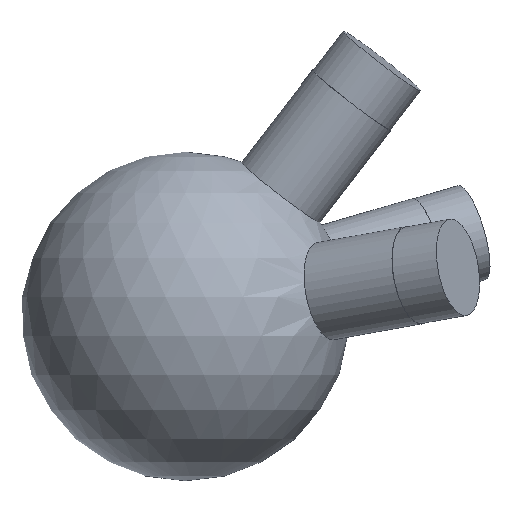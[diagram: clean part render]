
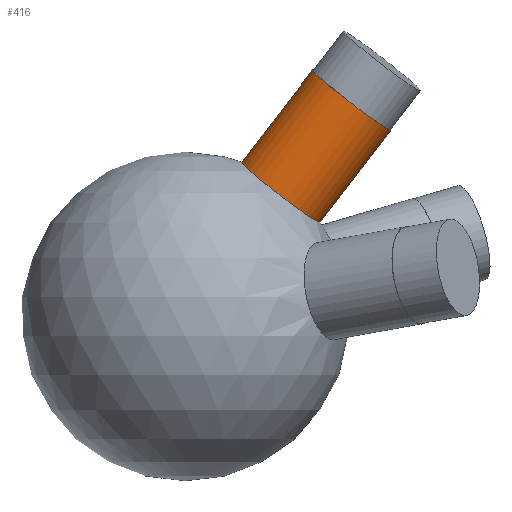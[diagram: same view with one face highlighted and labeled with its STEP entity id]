
A CAD part, left-side view. The second image highlights one B-rep face of the part: STEP entity #416.
In plain terms, the highlighted cylindrical face has radius 6 mm (diameter 12 mm), a full revolution.
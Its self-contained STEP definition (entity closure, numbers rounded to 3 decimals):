
#35 = SPHERICAL_SURFACE('',#36,20.);
#36 = AXIS2_PLACEMENT_3D('',#37,#38,#39);
#37 = CARTESIAN_POINT('',(0.,0.,0.));
#38 = DIRECTION('',(0.,0.,1.));
#39 = DIRECTION('',(1.,0.,-0.));
#209 = EDGE_CURVE('',#210,#210,#212,.T.);
#210 = VERTEX_POINT('',#211);
#211 = CARTESIAN_POINT('',(-1.073,-6.865,
    18.754));
#212 = SURFACE_CURVE('',#213,(#218,#294),.PCURVE_S1.);
#213 = CIRCLE('',#214,6.);
#214 = AXIS2_PLACEMENT_3D('',#215,#216,#217);
#215 = CARTESIAN_POINT('',(-1.073,-11.619,
    15.094));
#216 = DIRECTION('',(-0.056,-0.609,0.791)
  );
#217 = DIRECTION('',(0.,-0.792,-0.61
    ));
#218 = PCURVE('',#35,#219);
#219 = DEFINITIONAL_REPRESENTATION('',(#220),#293);
#220 = B_SPLINE_CURVE_WITH_KNOTS('',8,(#221,#222,#223,#224,#225,#226,
    #227,#228,#229,#230,#231,#232,#233,#234,#235,#236,#237,#238,#239,
    #240,#241,#242,#243,#244,#245,#246,#247,#248,#249,#250,#251,#252,
    #253,#254,#255,#256,#257,#258,#259,#260,#261,#262,#263,#264,#265,
    #266,#267,#268,#269,#270,#271,#272,#273,#274,#275,#276,#277,#278,
    #279,#280,#281,#282,#283,#284,#285,#286,#287,#288,#289,#290,#291,
    #292),.UNSPECIFIED.,.T.,.F.,(9,7,7,7,7,7,7,7,7,7,9),(3.142,
    3.534,3.902,4.593,5.801,
    6.707,7.386,7.896,8.66,
    9.043,9.425),.UNSPECIFIED.);
#221 = CARTESIAN_POINT('',(4.557,1.216));
#222 = CARTESIAN_POINT('',(4.515,1.214));
#223 = CARTESIAN_POINT('',(4.474,1.211));
#224 = CARTESIAN_POINT('',(4.434,1.206));
#225 = CARTESIAN_POINT('',(4.397,1.2));
#226 = CARTESIAN_POINT('',(4.361,1.193));
#227 = CARTESIAN_POINT('',(4.329,1.184));
#228 = CARTESIAN_POINT('',(4.299,1.175));
#229 = CARTESIAN_POINT('',(4.247,1.155));
#230 = CARTESIAN_POINT('',(4.225,1.145));
#231 = CARTESIAN_POINT('',(4.204,1.134));
#232 = CARTESIAN_POINT('',(4.187,1.122));
#233 = CARTESIAN_POINT('',(4.171,1.11));
#234 = CARTESIAN_POINT('',(4.158,1.098));
#235 = CARTESIAN_POINT('',(4.147,1.085));
#236 = CARTESIAN_POINT('',(4.12,1.047));
#237 = CARTESIAN_POINT('',(4.109,1.022));
#238 = CARTESIAN_POINT('',(4.104,0.996));
#239 = CARTESIAN_POINT('',(4.104,0.97));
#240 = CARTESIAN_POINT('',(4.107,0.944));
#241 = CARTESIAN_POINT('',(4.115,0.918));
#242 = CARTESIAN_POINT('',(4.125,0.893));
#243 = CARTESIAN_POINT('',(4.161,0.826));
#244 = CARTESIAN_POINT('',(4.192,0.785));
#245 = CARTESIAN_POINT('',(4.229,0.747));
#246 = CARTESIAN_POINT('',(4.271,0.713));
#247 = CARTESIAN_POINT('',(4.318,0.684));
#248 = CARTESIAN_POINT('',(4.367,0.659));
#249 = CARTESIAN_POINT('',(4.419,0.64));
#250 = CARTESIAN_POINT('',(4.512,0.616));
#251 = CARTESIAN_POINT('',(4.553,0.609));
#252 = CARTESIAN_POINT('',(4.595,0.605));
#253 = CARTESIAN_POINT('',(4.636,0.605));
#254 = CARTESIAN_POINT('',(4.678,0.608));
#255 = CARTESIAN_POINT('',(4.719,0.614));
#256 = CARTESIAN_POINT('',(4.759,0.623));
#257 = CARTESIAN_POINT('',(4.828,0.644));
#258 = CARTESIAN_POINT('',(4.857,0.655));
#259 = CARTESIAN_POINT('',(4.885,0.668));
#260 = CARTESIAN_POINT('',(4.913,0.682));
#261 = CARTESIAN_POINT('',(4.939,0.698));
#262 = CARTESIAN_POINT('',(4.964,0.715));
#263 = CARTESIAN_POINT('',(4.988,0.734));
#264 = CARTESIAN_POINT('',(5.026,0.768));
#265 = CARTESIAN_POINT('',(5.042,0.784));
#266 = CARTESIAN_POINT('',(5.057,0.8));
#267 = CARTESIAN_POINT('',(5.07,0.817));
#268 = CARTESIAN_POINT('',(5.083,0.834));
#269 = CARTESIAN_POINT('',(5.094,0.851));
#270 = CARTESIAN_POINT('',(5.104,0.869));
#271 = CARTESIAN_POINT('',(5.124,0.915));
#272 = CARTESIAN_POINT('',(5.133,0.944));
#273 = CARTESIAN_POINT('',(5.138,0.973));
#274 = CARTESIAN_POINT('',(5.137,1.002));
#275 = CARTESIAN_POINT('',(5.131,1.03));
#276 = CARTESIAN_POINT('',(5.118,1.059));
#277 = CARTESIAN_POINT('',(5.097,1.086));
#278 = CARTESIAN_POINT('',(5.05,1.123));
#279 = CARTESIAN_POINT('',(5.033,1.136));
#280 = CARTESIAN_POINT('',(5.012,1.147));
#281 = CARTESIAN_POINT('',(4.989,1.158));
#282 = CARTESIAN_POINT('',(4.964,1.168));
#283 = CARTESIAN_POINT('',(4.935,1.177));
#284 = CARTESIAN_POINT('',(4.904,1.186));
#285 = CARTESIAN_POINT('',(4.837,1.2));
#286 = CARTESIAN_POINT('',(4.801,1.206));
#287 = CARTESIAN_POINT('',(4.763,1.211));
#288 = CARTESIAN_POINT('',(4.723,1.215));
#289 = CARTESIAN_POINT('',(4.682,1.217));
#290 = CARTESIAN_POINT('',(4.64,1.218));
#291 = CARTESIAN_POINT('',(4.598,1.218));
#292 = CARTESIAN_POINT('',(4.557,1.216));
#293 = ( GEOMETRIC_REPRESENTATION_CONTEXT(2) 
PARAMETRIC_REPRESENTATION_CONTEXT() REPRESENTATION_CONTEXT('2D SPACE',''
  ) );
#294 = PCURVE('',#295,#300);
#295 = CYLINDRICAL_SURFACE('',#296,6.);
#296 = AXIS2_PLACEMENT_3D('',#297,#298,#299);
#297 = CARTESIAN_POINT('',(0.,0.,0.));
#298 = DIRECTION('',(-0.056,-0.609,0.791)
  );
#299 = DIRECTION('',(0.,0.792,0.61));
#300 = DEFINITIONAL_REPRESENTATION('',(#301),#305);
#301 = LINE('',#302,#303);
#302 = CARTESIAN_POINT('',(-3.142,19.079));
#303 = VECTOR('',#304,1.);
#304 = DIRECTION('',(1.,0.));
#305 = ( GEOMETRIC_REPRESENTATION_CONTEXT(2) 
PARAMETRIC_REPRESENTATION_CONTEXT() REPRESENTATION_CONTEXT('2D SPACE',''
  ) );
#416 = ADVANCED_FACE('',(#417),#295,.T.);
#417 = FACE_BOUND('',#418,.T.);
#418 = EDGE_LOOP('',(#419,#442,#469,#470));
#419 = ORIENTED_EDGE('',*,*,#420,.T.);
#420 = EDGE_CURVE('',#210,#421,#423,.T.);
#421 = VERTEX_POINT('',#422);
#422 = CARTESIAN_POINT('',(-1.871,-15.51,
    29.984));
#423 = SEAM_CURVE('',#424,(#428,#435),.PCURVE_S1.);
#424 = LINE('',#425,#426);
#425 = CARTESIAN_POINT('',(0.,4.754,
    3.66));
#426 = VECTOR('',#427,1.);
#427 = DIRECTION('',(-0.056,-0.609,0.791)
  );
#428 = PCURVE('',#295,#429);
#429 = DEFINITIONAL_REPRESENTATION('',(#430),#434);
#430 = LINE('',#431,#432);
#431 = CARTESIAN_POINT('',(6.283,-0.));
#432 = VECTOR('',#433,1.);
#433 = DIRECTION('',(0.,1.));
#434 = ( GEOMETRIC_REPRESENTATION_CONTEXT(2) 
PARAMETRIC_REPRESENTATION_CONTEXT() REPRESENTATION_CONTEXT('2D SPACE',''
  ) );
#435 = PCURVE('',#295,#436);
#436 = DEFINITIONAL_REPRESENTATION('',(#437),#441);
#437 = LINE('',#438,#439);
#438 = CARTESIAN_POINT('',(0.,-0.));
#439 = VECTOR('',#440,1.);
#440 = DIRECTION('',(0.,1.));
#441 = ( GEOMETRIC_REPRESENTATION_CONTEXT(2) 
PARAMETRIC_REPRESENTATION_CONTEXT() REPRESENTATION_CONTEXT('2D SPACE',''
  ) );
#442 = ORIENTED_EDGE('',*,*,#443,.F.);
#443 = EDGE_CURVE('',#421,#421,#444,.T.);
#444 = SURFACE_CURVE('',#445,(#450,#457),.PCURVE_S1.);
#445 = CIRCLE('',#446,6.);
#446 = AXIS2_PLACEMENT_3D('',#447,#448,#449);
#447 = CARTESIAN_POINT('',(-1.871,-20.264,
    26.325));
#448 = DIRECTION('',(-0.056,-0.609,0.791)
  );
#449 = DIRECTION('',(0.,0.792,0.61));
#450 = PCURVE('',#295,#451);
#451 = DEFINITIONAL_REPRESENTATION('',(#452),#456);
#452 = LINE('',#453,#454);
#453 = CARTESIAN_POINT('',(0.,33.273));
#454 = VECTOR('',#455,1.);
#455 = DIRECTION('',(1.,0.));
#456 = ( GEOMETRIC_REPRESENTATION_CONTEXT(2) 
PARAMETRIC_REPRESENTATION_CONTEXT() REPRESENTATION_CONTEXT('2D SPACE',''
  ) );
#457 = PCURVE('',#458,#463);
#458 = PLANE('',#459);
#459 = AXIS2_PLACEMENT_3D('',#460,#461,#462);
#460 = CARTESIAN_POINT('',(-1.871,-20.264,
    26.325));
#461 = DIRECTION('',(-0.056,-0.609,0.791)
  );
#462 = DIRECTION('',(0.,0.792,0.61));
#463 = DEFINITIONAL_REPRESENTATION('',(#464),#468);
#464 = CIRCLE('',#465,6.);
#465 = AXIS2_PLACEMENT_2D('',#466,#467);
#466 = CARTESIAN_POINT('',(0.,0.));
#467 = DIRECTION('',(1.,0.));
#468 = ( GEOMETRIC_REPRESENTATION_CONTEXT(2) 
PARAMETRIC_REPRESENTATION_CONTEXT() REPRESENTATION_CONTEXT('2D SPACE',''
  ) );
#469 = ORIENTED_EDGE('',*,*,#420,.F.);
#470 = ORIENTED_EDGE('',*,*,#209,.T.);
